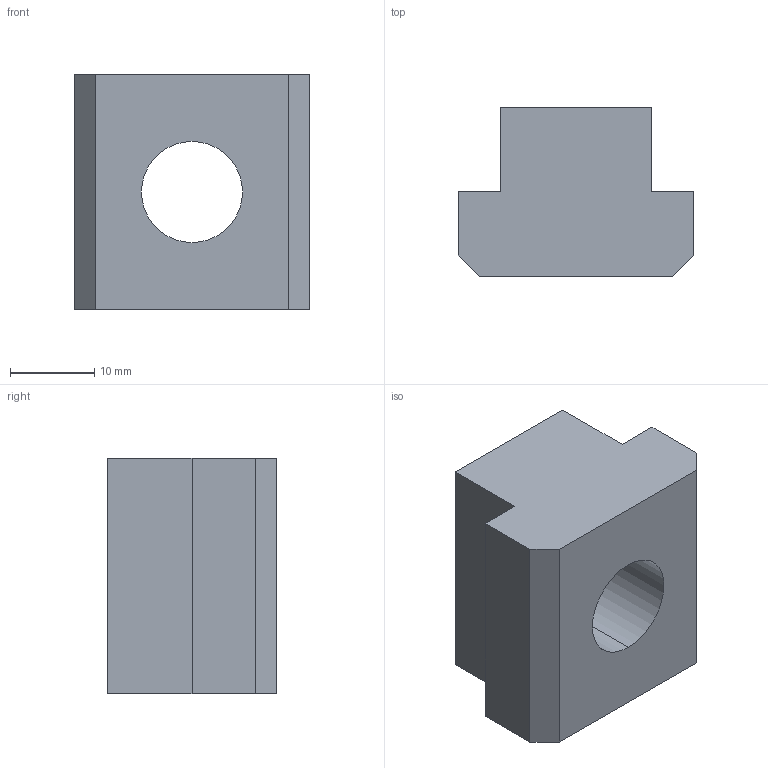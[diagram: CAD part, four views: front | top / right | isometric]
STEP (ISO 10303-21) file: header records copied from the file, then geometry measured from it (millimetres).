
FILE_DESCRIPTION (( 'STEP AP214' ), '1' );
FILE_NAME ('508-18-M14-10.step', '2018-08-01T06:47:00', ( 'user' ), ( '' ), 'SwSTEP 2.0', 'SolidWorks 2017', '' );
FILE_SCHEMA (( 'AUTOMOTIVE_DESIGN' ));
Length unit declared in the file: millimetre
Products named in the file (1): 508-18-M14-10
Bounding box: 28 x 20 x 28 mm (x, y, z)
Volume: 10416.5 mm3; surface area: 4017.6 mm2
Topology: 1 solids, 1 shells, 16 faces, 40 edges, 26 vertices
Faces by surface type: plane 12, cone 2, cylinder 2
Entity records: 556 total; most frequent: CARTESIAN_POINT 83, ORIENTED_EDGE 80, DIRECTION 80, EDGE_CURVE 40, VECTOR 34, LINE 34, VERTEX_POINT 26, AXIS2_PLACEMENT_3D 23
